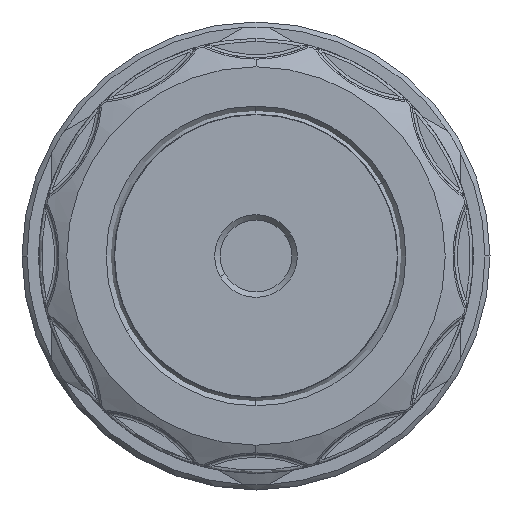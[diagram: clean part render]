
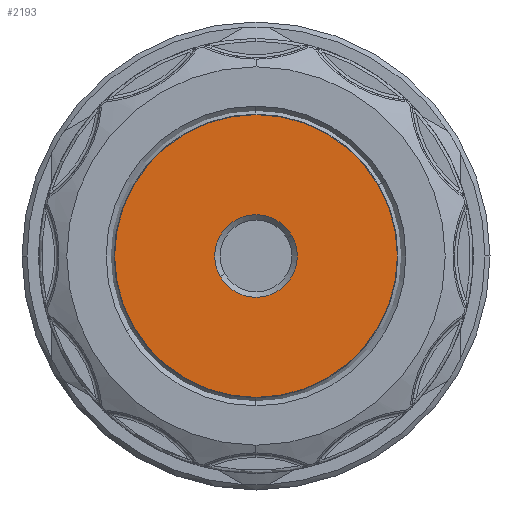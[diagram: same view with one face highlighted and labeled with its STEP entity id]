
A CAD part, left-side view. The second image highlights one B-rep face of the part: STEP entity #2193.
In plain terms, the highlighted planar face has unit normal (-1, 0, 0).
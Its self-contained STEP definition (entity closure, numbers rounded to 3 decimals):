
#1378 = ORIENTED_EDGE ( 'NONE', *, *, #2159, .T. ) ;
#1379 = ORIENTED_EDGE ( 'NONE', *, *, #2288, .T. ) ;
#1380 = ORIENTED_EDGE ( 'NONE', *, *, #2289, .T. ) ;
#1382 = ORIENTED_EDGE ( 'NONE', *, *, #2251, .T. ) ;
#2159 = EDGE_CURVE ( 'NONE', #4440, #4439, #5791, .T. ) ;
#2193 = ADVANCED_FACE ( 'NONE', ( #6270, #6274 ), #6857, .F. ) ;
#2251 = EDGE_CURVE ( 'NONE', #4477, #4478, #5849, .T. ) ;
#2288 = EDGE_CURVE ( 'NONE', #4439, #4440, #5865, .T. ) ;
#2289 = EDGE_CURVE ( 'NONE', #4478, #4477, #5866, .T. ) ;
#4439 = VERTEX_POINT ( 'NONE', #16324 ) ;
#4440 = VERTEX_POINT ( 'NONE', #16325 ) ;
#4477 = VERTEX_POINT ( 'NONE', #16362 ) ;
#4478 = VERTEX_POINT ( 'NONE', #16363 ) ;
#4959 = EDGE_LOOP ( 'NONE', ( #1378, #1379 ) ) ;
#4960 = EDGE_LOOP ( 'NONE', ( #1380, #1382 ) ) ;
#5791 = CIRCLE ( 'NONE', #6202, 4.15 ) ;
#5849 = CIRCLE ( 'NONE', #6365, 14.2 ) ;
#5865 = CIRCLE ( 'NONE', #6404, 4.15 ) ;
#5866 = CIRCLE ( 'NONE', #6400, 14.2 ) ;
#6202 = AXIS2_PLACEMENT_3D ( 'NONE', #6754, #6755, #6756 ) ;
#6270 = FACE_BOUND ( 'NONE', #4959, .T. ) ;
#6274 = FACE_OUTER_BOUND ( 'NONE', #4960, .T. ) ;
#6276 = AXIS2_PLACEMENT_3D ( 'NONE', #6858, #6859, #6860 ) ;
#6365 = AXIS2_PLACEMENT_3D ( 'NONE', #7032, #7039, #7040 ) ;
#6400 = AXIS2_PLACEMENT_3D ( 'NONE', #7152, #7153, #7154 ) ;
#6404 = AXIS2_PLACEMENT_3D ( 'NONE', #7140, #7150, #7151 ) ;
#6754 = CARTESIAN_POINT ( 'NONE',  ( -138., 0., 0. ) ) ;
#6755 = DIRECTION ( 'NONE',  ( 1., 0., 0. ) ) ;
#6756 = DIRECTION ( 'NONE',  ( 0., -0.866, 0.5 ) ) ;
#6857 = PLANE ( 'NONE',  #6276 ) ;
#6858 = CARTESIAN_POINT ( 'NONE',  ( -138., 0., 0. ) ) ;
#6859 = DIRECTION ( 'NONE',  ( 1., 0., 0. ) ) ;
#6860 = DIRECTION ( 'NONE',  ( 0., -0.866, 0.5 ) ) ;
#7032 = CARTESIAN_POINT ( 'NONE',  ( -138., 0., 0. ) ) ;
#7039 = DIRECTION ( 'NONE',  ( -1., 0., 0. ) ) ;
#7040 = DIRECTION ( 'NONE',  ( 0., -0.866, 0.5 ) ) ;
#7140 = CARTESIAN_POINT ( 'NONE',  ( -138., 0., 0. ) ) ;
#7150 = DIRECTION ( 'NONE',  ( 1., 0., 0. ) ) ;
#7151 = DIRECTION ( 'NONE',  ( 0., -0.866, 0.5 ) ) ;
#7152 = CARTESIAN_POINT ( 'NONE',  ( -138., 0., 0. ) ) ;
#7153 = DIRECTION ( 'NONE',  ( -1., 0., 0. ) ) ;
#7154 = DIRECTION ( 'NONE',  ( 0., -0.866, 0.5 ) ) ;
#16324 = CARTESIAN_POINT ( 'NONE',  ( -138., -3.594, 2.075 ) ) ;
#16325 = CARTESIAN_POINT ( 'NONE',  ( -138., 3.594, -2.075 ) ) ;
#16362 = CARTESIAN_POINT ( 'NONE',  ( -138., 12.298, -7.1 ) ) ;
#16363 = CARTESIAN_POINT ( 'NONE',  ( -138., -12.298, 7.1 ) ) ;
